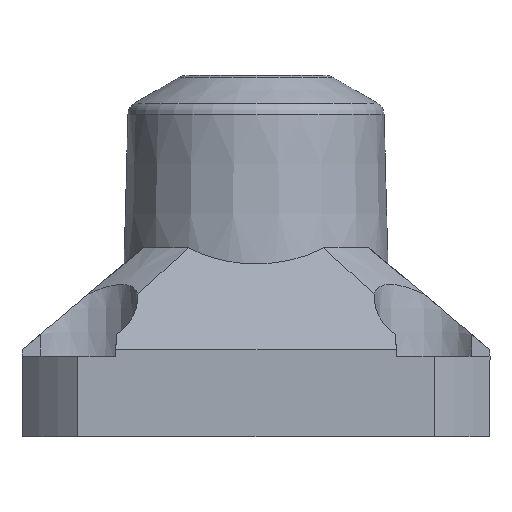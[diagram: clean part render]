
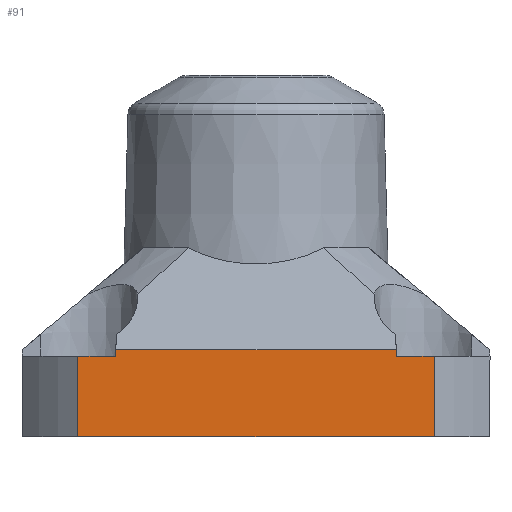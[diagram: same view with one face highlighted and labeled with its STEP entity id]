
A CAD part, front view. The second image highlights one B-rep face of the part: STEP entity #91.
In plain terms, the highlighted planar face has unit normal (0, -1, 0).
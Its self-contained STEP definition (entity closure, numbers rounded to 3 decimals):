
#91=ADVANCED_FACE('',(#458),#460,.F.);
#458=FACE_BOUND('',#459,.T.);
#459=EDGE_LOOP('',(#1850,#1851,#1852,#1853,#1854,#1855,#1856,#1857));
#460=PLANE('',#461);
#461=AXIS2_PLACEMENT_3D('',#462,#463,#464);
#462=CARTESIAN_POINT('',(60.,-35.,11.));
#463=DIRECTION('',(0.,1.,0.));
#464=DIRECTION('',(0.,0.,-1.));
#1850=ORIENTED_EDGE('',*,*,#2355,.T.);
#1851=ORIENTED_EDGE('',*,*,#2356,.T.);
#1852=ORIENTED_EDGE('',*,*,#2357,.T.);
#1853=ORIENTED_EDGE('',*,*,#2330,.F.);
#1854=ORIENTED_EDGE('',*,*,#2354,.T.);
#1855=ORIENTED_EDGE('',*,*,#2358,.T.);
#1856=ORIENTED_EDGE('',*,*,#2359,.T.);
#1857=ORIENTED_EDGE('',*,*,#2360,.T.);
#2330=EDGE_CURVE('',#2707,#2709,#2710,.F.);
#2354=EDGE_CURVE('',#2707,#2750,#2752,.T.);
#2355=EDGE_CURVE('',#2753,#2754,#2755,.T.);
#2356=EDGE_CURVE('',#2754,#2756,#2757,.F.);
#2357=EDGE_CURVE('',#2756,#2709,#2758,.F.);
#2358=EDGE_CURVE('',#2750,#2759,#2760,.F.);
#2359=EDGE_CURVE('',#2759,#2761,#2762,.T.);
#2360=EDGE_CURVE('',#2761,#2753,#2763,.T.);
#2707=VERTEX_POINT('',#4107);
#2709=VERTEX_POINT('',#4112);
#2710=LINE('',#4113,#4114);
#2750=VERTEX_POINT('',#4205);
#2752=LINE('',#4210,#4211);
#2753=VERTEX_POINT('',#4213);
#2754=VERTEX_POINT('',#4214);
#2755=LINE('',#4215,#4216);
#2756=VERTEX_POINT('',#4218);
#2757=LINE('',#4219,#4220);
#2758=LINE('',#4222,#4223);
#2759=VERTEX_POINT('',#4225);
#2760=LINE('',#4226,#4227);
#2761=VERTEX_POINT('',#4229);
#2762=LINE('',#4230,#4231);
#2763=LINE('',#4233,#4234);
#4107=CARTESIAN_POINT('',(26.665,-35.,-2.));
#4112=CARTESIAN_POINT('',(-26.665,-35.,-2.));
#4113=CARTESIAN_POINT('',(-26.665,-35.,-2.));
#4114=VECTOR('',#4115,1.);
#4115=DIRECTION('',(1.,0.,0.));
#4205=CARTESIAN_POINT('',(26.665,-35.,10.));
#4210=CARTESIAN_POINT('',(26.665,-35.,-2.));
#4211=VECTOR('',#4212,1.);
#4212=DIRECTION('',(0.,0.,1.));
#4213=CARTESIAN_POINT('',(-20.965,-35.,11.));
#4214=CARTESIAN_POINT('',(-21.,-35.,10.));
#4215=CARTESIAN_POINT('',(-20.965,-35.,11.));
#4216=VECTOR('',#4217,1.);
#4217=DIRECTION('',(-0.035,0.,-0.999));
#4218=CARTESIAN_POINT('',(-26.665,-35.,10.));
#4219=CARTESIAN_POINT('',(-26.665,-35.,10.));
#4220=VECTOR('',#4221,1.);
#4221=DIRECTION('',(1.,0.,0.));
#4222=CARTESIAN_POINT('',(-26.665,-35.,-2.));
#4223=VECTOR('',#4224,1.);
#4224=DIRECTION('',(0.,0.,1.));
#4225=CARTESIAN_POINT('',(21.,-35.,10.));
#4226=CARTESIAN_POINT('',(21.,-35.,10.));
#4227=VECTOR('',#4228,1.);
#4228=DIRECTION('',(1.,0.,0.));
#4229=CARTESIAN_POINT('',(20.965,-35.,11.));
#4230=CARTESIAN_POINT('',(21.,-35.,10.));
#4231=VECTOR('',#4232,1.);
#4232=DIRECTION('',(-0.035,0.,0.999));
#4233=CARTESIAN_POINT('',(20.965,-35.,11.));
#4234=VECTOR('',#4235,1.);
#4235=DIRECTION('',(-1.,0.,0.));
